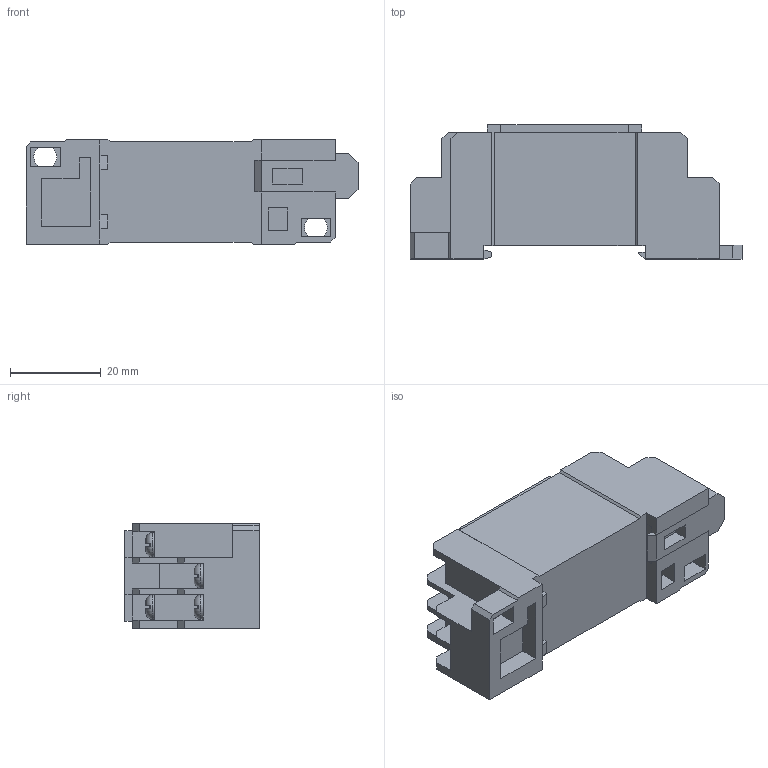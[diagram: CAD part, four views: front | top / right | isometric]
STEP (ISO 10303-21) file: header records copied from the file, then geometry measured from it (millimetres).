
FILE_DESCRIPTION (( 'STEP AP203' ), '1' );
FILE_NAME ('Ðîçåòêà äëÿ RI-52 ENGARD.STEP', '2021-12-09T11:09:07', ( '' ), ( '' ), 'SwSTEP 2.0', 'SolidWorks 2017', '' );
FILE_SCHEMA (( 'CONFIG_CONTROL_DESIGN' ));
Length unit declared in the file: millimetre
Products named in the file (1): Ðîçåòêà äëÿ RI-52 ENGARD
Bounding box: 73 x 29.5 x 23 mm (x, y, z)
Volume: 32328.2 mm3; surface area: 12311.4 mm2
Topology: 18 solids, 18 shells, 475 faces, 1245 edges, 818 vertices
Faces by surface type: plane 423, cylinder 36, torus 16
Entity records: 14794 total; most frequent: CARTESIAN_POINT 3099, ORIENTED_EDGE 2490, DIRECTION 2205, EDGE_CURVE 1245, VECTOR 1013, LINE 1013, VERTEX_POINT 818, AXIS2_PLACEMENT_3D 596
